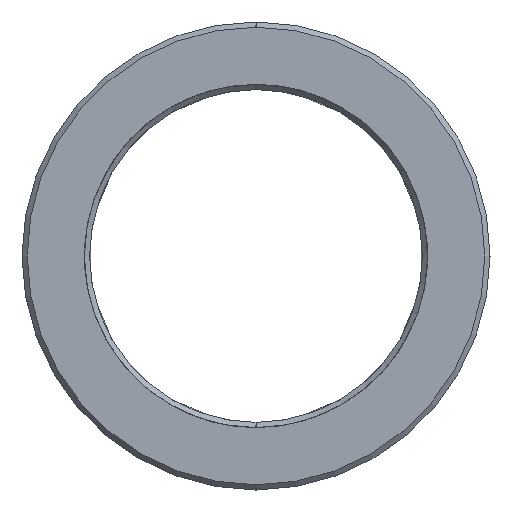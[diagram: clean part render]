
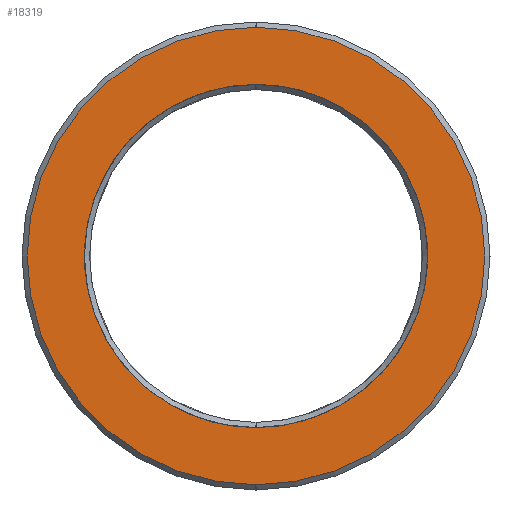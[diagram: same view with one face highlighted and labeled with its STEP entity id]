
A CAD part, left-side view. The second image highlights one B-rep face of the part: STEP entity #18319.
In plain terms, the highlighted planar face has unit normal (1, 0, 0).
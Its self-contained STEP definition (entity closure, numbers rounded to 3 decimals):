
#18236=CARTESIAN_POINT('Axis2P3D Location',(0.,0.,0.)) ;
#18241=CARTESIAN_POINT('Axis2P3D Location',(0.,0.,0.)) ;
#18245=CARTESIAN_POINT('Vertex',(0.,0.,-22.)) ;
#18247=CARTESIAN_POINT('Vertex',(0.,0.,22.)) ;
#18250=CARTESIAN_POINT('Axis2P3D Location',(0.,0.,0.)) ;
#18260=CARTESIAN_POINT('Control Point',(0.,0.,16.5)) ;
#18261=CARTESIAN_POINT('Control Point',(0.,1.592,16.5)) ;
#18262=CARTESIAN_POINT('Control Point',(0.,3.184,16.308)) ;
#18263=CARTESIAN_POINT('Control Point',(0.,4.745,15.924)) ;
#18264=CARTESIAN_POINT('Control Point',(0.,7.744,14.787)) ;
#18265=CARTESIAN_POINT('Control Point',(0.,10.386,12.97)) ;
#18266=CARTESIAN_POINT('Control Point',(0.,11.591,11.905)) ;
#18267=CARTESIAN_POINT('Control Point',(0.,13.72,9.507)) ;
#18268=CARTESIAN_POINT('Control Point',(0.,15.218,6.671)) ;
#18269=CARTESIAN_POINT('Control Point',(0.,15.791,5.169)) ;
#18270=CARTESIAN_POINT('Control Point',(0.,16.565,2.057)) ;
#18271=CARTESIAN_POINT('Control Point',(0.,16.576,-1.15)) ;
#18272=CARTESIAN_POINT('Control Point',(0.,16.387,-2.747)) ;
#18273=CARTESIAN_POINT('Control Point',(0.,15.629,-5.863)) ;
#18274=CARTESIAN_POINT('Control Point',(0.,14.151,-8.709)) ;
#18275=CARTESIAN_POINT('Control Point',(0.,13.243,-10.036)) ;
#18276=CARTESIAN_POINT('Control Point',(0.,11.125,-12.444)) ;
#18277=CARTESIAN_POINT('Control Point',(0.,8.496,-14.28)) ;
#18278=CARTESIAN_POINT('Control Point',(0.,7.076,-15.034)) ;
#18279=CARTESIAN_POINT('Control Point',(0.,4.813,-15.904)) ;
#18280=CARTESIAN_POINT('Control Point',(0.,2.442,-16.349)) ;
#18281=CARTESIAN_POINT('Control Point',(0.,1.631,-16.45)) ;
#18282=CARTESIAN_POINT('Control Point',(0.,0.815,-16.5)) ;
#18283=CARTESIAN_POINT('Control Point',(0.,0.,-16.5)) ;
#18284=CARTESIAN_POINT('Vertex',(0.,0.,16.5)) ;
#18286=CARTESIAN_POINT('Vertex',(0.,0.,-16.5)) ;
#18290=CARTESIAN_POINT('Control Point',(0.,0.,-16.5)) ;
#18291=CARTESIAN_POINT('Control Point',(0.,-1.592,-16.5)) ;
#18292=CARTESIAN_POINT('Control Point',(0.,-3.184,-16.308)) ;
#18293=CARTESIAN_POINT('Control Point',(0.,-4.745,-15.924)) ;
#18294=CARTESIAN_POINT('Control Point',(0.,-7.744,-14.787)) ;
#18295=CARTESIAN_POINT('Control Point',(0.,-10.386,-12.97)) ;
#18296=CARTESIAN_POINT('Control Point',(0.,-11.591,-11.905)) ;
#18297=CARTESIAN_POINT('Control Point',(0.,-13.72,-9.507)) ;
#18298=CARTESIAN_POINT('Control Point',(0.,-15.218,-6.671)) ;
#18299=CARTESIAN_POINT('Control Point',(0.,-15.791,-5.169)) ;
#18300=CARTESIAN_POINT('Control Point',(0.,-16.565,-2.057)) ;
#18301=CARTESIAN_POINT('Control Point',(0.,-16.576,1.15)) ;
#18302=CARTESIAN_POINT('Control Point',(0.,-16.387,2.747)) ;
#18303=CARTESIAN_POINT('Control Point',(0.,-15.629,5.863)) ;
#18304=CARTESIAN_POINT('Control Point',(0.,-14.151,8.709)) ;
#18305=CARTESIAN_POINT('Control Point',(0.,-13.243,10.036)) ;
#18306=CARTESIAN_POINT('Control Point',(0.,-11.125,12.444)) ;
#18307=CARTESIAN_POINT('Control Point',(0.,-8.496,14.28)) ;
#18308=CARTESIAN_POINT('Control Point',(0.,-7.076,15.034)) ;
#18309=CARTESIAN_POINT('Control Point',(0.,-4.813,15.904)) ;
#18310=CARTESIAN_POINT('Control Point',(0.,-2.442,16.349)) ;
#18311=CARTESIAN_POINT('Control Point',(0.,-1.631,16.45)) ;
#18312=CARTESIAN_POINT('Control Point',(0.,-0.815,16.5)) ;
#18313=CARTESIAN_POINT('Control Point',(0.,0.,16.5)) ;
#18237=DIRECTION('Axis2P3D Direction',(1.,0.,0.)) ;
#18238=DIRECTION('Axis2P3D XDirection',(0.,1.,0.)) ;
#18242=DIRECTION('Axis2P3D Direction',(1.,0.,0.)) ;
#18251=DIRECTION('Axis2P3D Direction',(1.,0.,0.)) ;
#18239=AXIS2_PLACEMENT_3D('Plane Axis2P3D',#18236,#18237,#18238) ;
#18243=AXIS2_PLACEMENT_3D('Circle Axis2P3D',#18241,#18242,$) ;
#18252=AXIS2_PLACEMENT_3D('Circle Axis2P3D',#18250,#18251,$) ;
#18256=ORIENTED_EDGE('',*,*,#18249,.T.) ;
#18257=ORIENTED_EDGE('',*,*,#18254,.T.) ;
#18316=ORIENTED_EDGE('',*,*,#18288,.T.) ;
#18317=ORIENTED_EDGE('',*,*,#18314,.T.) ;
#18318=FACE_BOUND('',#18315,.T.) ;
#18319=ADVANCED_FACE('MANIFOLD_SOLID_BREP #10377',(#18258,#18318),#18240,.T.) ;
#18259=B_SPLINE_CURVE_WITH_KNOTS('',5,(#18260,#18261,#18262,#18263,#18264,#18265,#18266,#18267,#18268,#18269,#18270,#18271,#18272,#18273,#18274,#18275,#18276,#18277,#18278,#18279,#18280,#18281,#18282,#18283),.UNSPECIFIED.,.F.,.U.,(6,3,3,3,3,3,3,6),(0.,11.257,22.514,33.771,45.028,56.284,67.541,73.307),.UNSPECIFIED.) ;
#18289=B_SPLINE_CURVE_WITH_KNOTS('',5,(#18290,#18291,#18292,#18293,#18294,#18295,#18296,#18297,#18298,#18299,#18300,#18301,#18302,#18303,#18304,#18305,#18306,#18307,#18308,#18309,#18310,#18311,#18312,#18313),.UNSPECIFIED.,.F.,.U.,(6,3,3,3,3,3,3,6),(0.,11.257,22.514,33.771,45.028,56.284,67.541,73.307),.UNSPECIFIED.) ;
#18244=CIRCLE('generated circle',#18243,22.) ;
#18253=CIRCLE('generated circle',#18252,22.) ;
#18249=EDGE_CURVE('',#18246,#18248,#18244,.T.) ;
#18254=EDGE_CURVE('',#18248,#18246,#18253,.T.) ;
#18288=EDGE_CURVE('',#18285,#18287,#18259,.T.) ;
#18314=EDGE_CURVE('',#18287,#18285,#18289,.T.) ;
#18255=EDGE_LOOP('',(#18256,#18257)) ;
#18315=EDGE_LOOP('',(#18316,#18317)) ;
#18258=FACE_OUTER_BOUND('',#18255,.T.) ;
#18240=PLANE('Plane',#18239) ;
#18246=VERTEX_POINT('',#18245) ;
#18248=VERTEX_POINT('',#18247) ;
#18285=VERTEX_POINT('',#18284) ;
#18287=VERTEX_POINT('',#18286) ;
